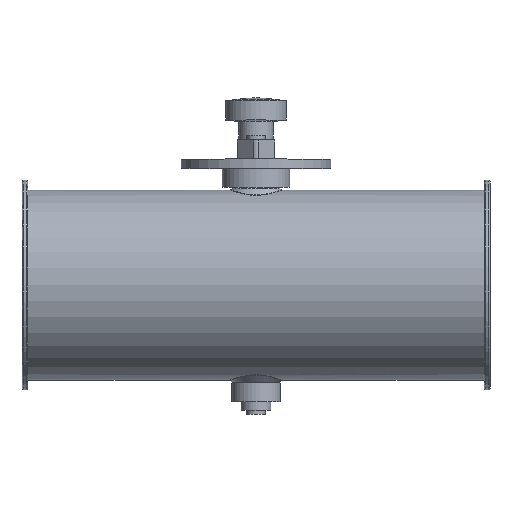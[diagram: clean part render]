
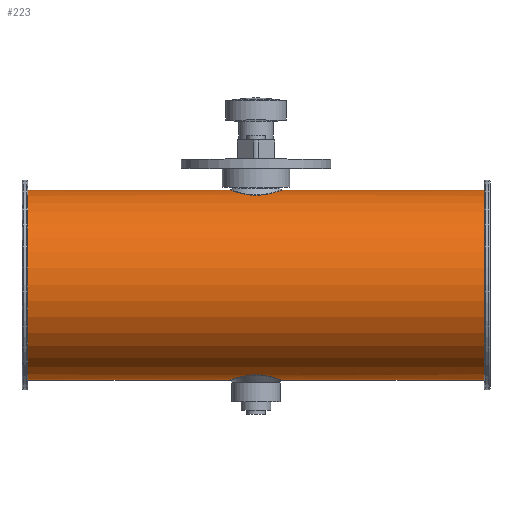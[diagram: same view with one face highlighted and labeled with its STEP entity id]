
A CAD part, top view. The second image highlights one B-rep face of the part: STEP entity #223.
In plain terms, the highlighted cylindrical face has radius 50.8 mm (diameter 101.6 mm), a full revolution.
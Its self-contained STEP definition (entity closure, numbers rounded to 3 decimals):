
#115=B_SPLINE_CURVE_WITH_KNOTS('',3,(#2071,#2072,#2073,#2074,#2075,#2076,
#2077,#2078,#2079,#2080,#2081,#2082,#2083,#2084,#2085,#2086,#2087,#2088,
#2089,#2090,#2091,#2092,#2093,#2094),.UNSPECIFIED.,.T.,.F.,(2,2,2,2,2,2,
2,2,2,2,2,2,2,2),(-0.063,0.,0.063,0.125,0.25,0.375,
0.438,0.5,0.625,0.75,0.875,0.938,1.,1.063),.UNSPECIFIED.);
#116=B_SPLINE_CURVE_WITH_KNOTS('',3,(#2096,#2097,#2098,#2099,#2100,#2101,
#2102,#2103,#2104,#2105,#2106,#2107,#2108,#2109,#2110,#2111,#2112,#2113,
#2114,#2115,#2116,#2117,#2118,#2119,#2120,#2121),.UNSPECIFIED.,.T.,.F.,(2,
2,2,2,2,2,2,2,2,2,2,2,2,2,2),(-0.062,0.,0.063,
0.125,0.25,0.375,0.438,0.5,
0.563,0.625,0.75,0.875,0.938,1.,1.063),.UNSPECIFIED.);
#149=CYLINDRICAL_SURFACE('',#1442,50.8);
#223=ADVANCED_FACE('',(#451,#452,#453,#454),#149,.T.);
#365=CIRCLE('',#1440,50.8);
#366=CIRCLE('',#1441,50.8);
#451=FACE_BOUND('',#609,.T.);
#452=FACE_BOUND('',#610,.T.);
#453=FACE_BOUND('',#611,.T.);
#454=FACE_BOUND('',#612,.T.);
#609=EDGE_LOOP('',(#817));
#610=EDGE_LOOP('',(#818));
#611=EDGE_LOOP('',(#819));
#612=EDGE_LOOP('',(#820));
#817=ORIENTED_EDGE('',*,*,#1199,.T.);
#818=ORIENTED_EDGE('',*,*,#1200,.T.);
#819=ORIENTED_EDGE('',*,*,#1201,.T.);
#820=ORIENTED_EDGE('',*,*,#1202,.F.);
#1073=VERTEX_POINT('',#2070);
#1074=VERTEX_POINT('',#2095);
#1075=VERTEX_POINT('',#2122);
#1076=VERTEX_POINT('',#2124);
#1199=EDGE_CURVE('',#1073,#1073,#365,.T.);
#1200=EDGE_CURVE('',#1074,#1074,#115,.T.);
#1201=EDGE_CURVE('',#1075,#1075,#116,.T.);
#1202=EDGE_CURVE('',#1076,#1076,#366,.T.);
#1440=AXIS2_PLACEMENT_3D('',#2069,#1656,#1657);
#1441=AXIS2_PLACEMENT_3D('',#2123,#1658,#1659);
#1442=AXIS2_PLACEMENT_3D('',#2125,#1660,#1661);
#1656=DIRECTION('',(1.,0.,0.));
#1657=DIRECTION('',(0.,0.,1.));
#1658=DIRECTION('',(1.,0.,0.));
#1659=DIRECTION('',(0.,0.,1.));
#1660=DIRECTION('',(1.,0.,0.));
#1661=DIRECTION('',(0.,0.,-1.));
#2069=CARTESIAN_POINT('',(-122.,-8.3,125.));
#2070=CARTESIAN_POINT('',(-122.,-8.3,175.8));
#2071=CARTESIAN_POINT('',(-0.641,-56.186,108.034));
#2072=CARTESIAN_POINT('',(-4.642,-56.512,108.986));
#2073=CARTESIAN_POINT('',(-6.468,-56.847,109.98));
#2074=CARTESIAN_POINT('',(-9.553,-57.571,112.56));
#2075=CARTESIAN_POINT('',(-10.827,-57.959,114.145));
#2076=CARTESIAN_POINT('',(-13.777,-58.917,119.411));
#2077=CARTESIAN_POINT('',(-14.546,-59.241,123.656));
#2078=CARTESIAN_POINT('',(-13.401,-58.819,131.681));
#2079=CARTESIAN_POINT('',(-11.513,-58.078,135.52));
#2080=CARTESIAN_POINT('',(-7.107,-56.98,139.59));
#2081=CARTESIAN_POINT('',(-5.35,-56.624,140.679));
#2082=CARTESIAN_POINT('',(-1.462,-56.217,141.883));
#2083=CARTESIAN_POINT('',(0.658,-56.187,141.964));
#2084=CARTESIAN_POINT('',(6.633,-56.676,140.537));
#2085=CARTESIAN_POINT('',(9.833,-57.636,137.623));
#2086=CARTESIAN_POINT('',(13.773,-58.916,130.604));
#2087=CARTESIAN_POINT('',(14.545,-59.241,126.368));
#2088=CARTESIAN_POINT('',(13.406,-58.821,118.329));
#2089=CARTESIAN_POINT('',(11.52,-58.081,114.494));
#2090=CARTESIAN_POINT('',(7.126,-56.984,110.424));
#2091=CARTESIAN_POINT('',(5.371,-56.627,109.329));
#2092=CARTESIAN_POINT('',(1.456,-56.216,108.114));
#2093=CARTESIAN_POINT('',(-0.641,-56.186,108.034));
#2094=CARTESIAN_POINT('',(-4.642,-56.512,108.986));
#2095=CARTESIAN_POINT('',(-2.641,-56.349,108.51));
#2096=CARTESIAN_POINT('',(-4.643,39.912,108.986));
#2097=CARTESIAN_POINT('',(-0.639,39.586,108.033));
#2098=CARTESIAN_POINT('',(1.467,39.617,108.117));
#2099=CARTESIAN_POINT('',(5.359,40.025,109.325));
#2100=CARTESIAN_POINT('',(7.129,40.385,110.426));
#2101=CARTESIAN_POINT('',(11.529,41.484,114.504));
#2102=CARTESIAN_POINT('',(13.415,42.224,118.36));
#2103=CARTESIAN_POINT('',(14.542,42.64,126.377));
#2104=CARTESIAN_POINT('',(13.758,42.311,130.637));
#2105=CARTESIAN_POINT('',(10.814,41.355,135.871));
#2106=CARTESIAN_POINT('',(9.527,40.964,137.467));
#2107=CARTESIAN_POINT('',(6.453,40.245,140.028));
#2108=CARTESIAN_POINT('',(4.6,39.908,141.028));
#2109=CARTESIAN_POINT('',(0.649,39.587,141.961));
#2110=CARTESIAN_POINT('',(-1.48,39.617,141.881));
#2111=CARTESIAN_POINT('',(-5.371,40.027,140.669));
#2112=CARTESIAN_POINT('',(-7.124,40.384,139.578));
#2113=CARTESIAN_POINT('',(-11.526,41.483,135.5));
#2114=CARTESIAN_POINT('',(-13.409,42.222,131.678));
#2115=CARTESIAN_POINT('',(-14.548,42.642,123.589));
#2116=CARTESIAN_POINT('',(-13.777,42.317,119.4));
#2117=CARTESIAN_POINT('',(-10.809,41.353,114.119));
#2118=CARTESIAN_POINT('',(-9.548,40.97,112.554));
#2119=CARTESIAN_POINT('',(-6.46,40.246,109.975));
#2120=CARTESIAN_POINT('',(-4.643,39.912,108.986));
#2121=CARTESIAN_POINT('',(-0.639,39.586,108.033));
#2122=CARTESIAN_POINT('',(-2.641,39.749,108.51));
#2123=CARTESIAN_POINT('',(122.,-8.3,125.));
#2124=CARTESIAN_POINT('',(122.,-8.3,175.8));
#2125=CARTESIAN_POINT('',(-125.,-8.3,125.));
